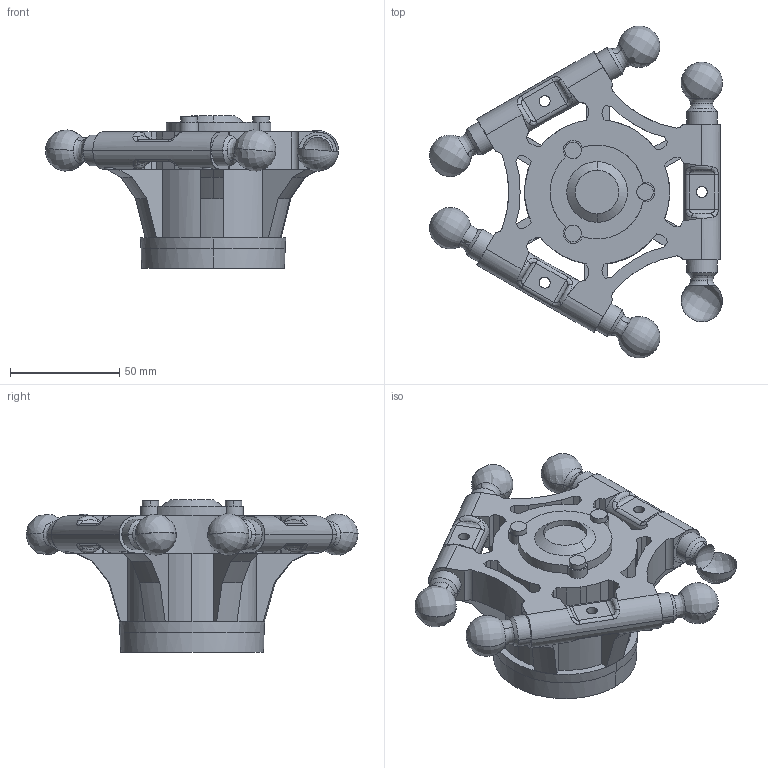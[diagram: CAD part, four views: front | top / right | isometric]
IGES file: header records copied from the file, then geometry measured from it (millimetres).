
Start section: SolidWorks IGES file using analytic representation for surfaces
Global section: file name: C:\Users\SELUHAA\OneDrive - ABB\Work items\609433\IRB360_8-1130-STD-4D_rev03\IRB360_8-1130-STD-4D_rev03_IGS_J\IRB360_8-1130-STD-4D_rev03_MovingPlate_CAD.igs; native system: SolidWorks 2022; preprocessor: SolidWorks 2022; author: SELUHAA; date: 250115.102645; units: millimetre
Bounding box: 134.26 x 152.13 x 70 mm (x, y, z)
Volume: 292480.9 mm3; surface area: 52092.2 mm2
Topology: 1 solids, 1 shells, 436 faces, 1260 edges, 806 vertices
Faces by surface type: plane 209, revolution 151, bspline 76
